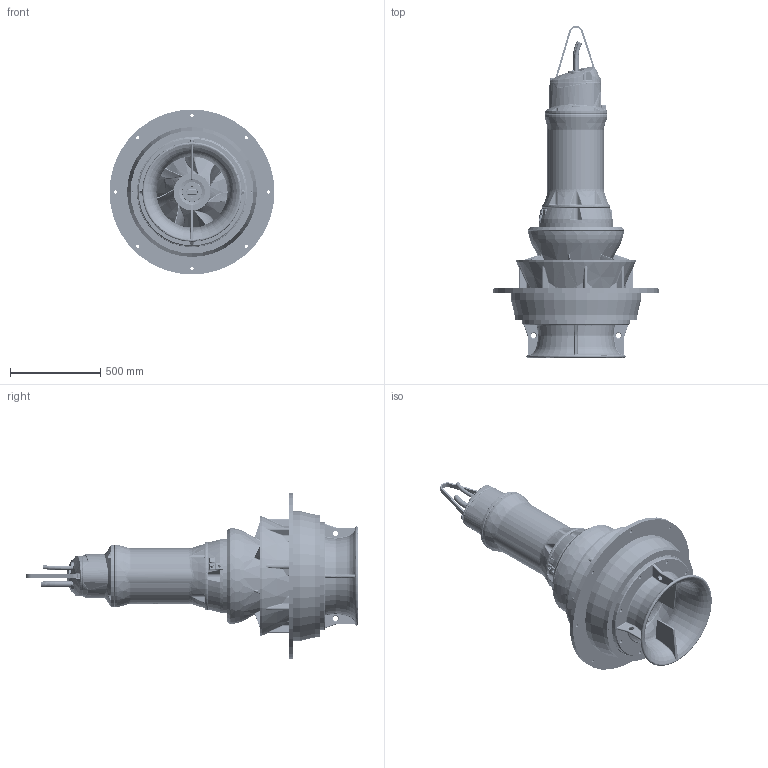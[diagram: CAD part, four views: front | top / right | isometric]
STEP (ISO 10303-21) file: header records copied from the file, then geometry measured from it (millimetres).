
FILE_DESCRIPTION (( 'STEP AP214' ), '1' );
FILE_NAME ('SE3 VUPC 0501-0502 FU.STEP', '2020-09-24T07:56:53', ( '' ), ( '' ), 'SwSTEP 2.0', 'SolidWorks 2017', '' );
FILE_SCHEMA (( 'AUTOMOTIVE_DESIGN' ));
Length unit declared in the file: millimetre
Products named in the file (1): SE3 VUPC 0501-0502 FU
Bounding box: 913 x 1836.39 x 913 mm (x, y, z)
Volume: 74789874.2 mm3; surface area: 9751932.5 mm2
Topology: 19 solids, 19 shells, 5731 faces, 13870 edges, 8064 vertices
Faces by surface type: bspline 1972, cylinder 1385, plane 1075, torus 630, cone 403, sphere 266
Entity records: 711428 total; most frequent: CARTESIAN_POINT 529611, ORIENTED_EDGE 26960, DIRECTION 21784, EDGE_CURVE 13480, AXIS2_PLACEMENT_3D 9034, VERTEX_POINT 8056, EDGE_LOOP 6180, UNCERTAINTY_MEASURE_WITH_UNIT 5750
